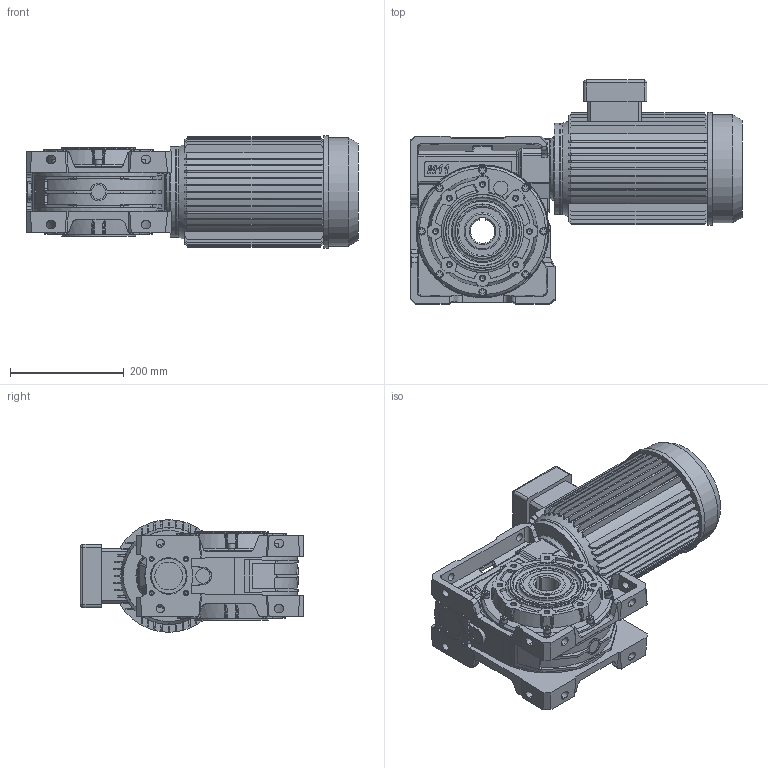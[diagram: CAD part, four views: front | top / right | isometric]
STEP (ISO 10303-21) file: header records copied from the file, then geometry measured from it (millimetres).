
FILE_DESCRIPTION( ( 'Unknown' ), '1' );
FILE_NAME( 'E:/services/configuratordownloads/customers/HYDROMEC/VQM/download/1323B077A282C1C55A4AB09F234EB8BE/STEP/1323B077A282C1C55A4AB09F234EB8BE.3d.stp', 'Unknown', ( 'Unknown' ), ( 'Unknown' ), 'PSStep 10.1', 'Unknown', ' ' );
FILE_SCHEMA( ( 'AUTOMOTIVE_DESIGN { 1 0 10303 214 1 1 1 1 }' ) );
Length unit declared in the file: millimetre
Products named in the file (1): M118800
Bounding box: 583.5 x 393.5 x 198 mm (x, y, z)
Volume: 16115857.2 mm3; surface area: 958347.6 mm2
Topology: 1 solids, 21 shells, 1527 faces, 4138 edges, 2713 vertices
Faces by surface type: plane 836, cylinder 271, cone 215, bspline 142, torus 33, extrusion 22, sphere 8
Full cylindrical faces by diameter (mm): 4.917 x12, 6.647 x8, 6.8 x8, 8 x8, 8.376 x32, 9 x12, 13 x8, 14 x6, 25 x4, 45 x2, 49 x1, 61 x1, 62 x1, 65 x2, 68 x1, 75 x1, 85 x2, 110 x1, 130 x2, 160 x2, 170.261 x1, 190 x1, 198 x1
Entity records: 67399 total; most frequent: CARTESIAN_POINT 19038, ORIENTED_EDGE 7602, DIRECTION 7018, EDGE_CURVE 3801, VERTEX_POINT 2620, AXIS2_PLACEMENT_3D 2475, VECTOR 2068, LINE 2046
